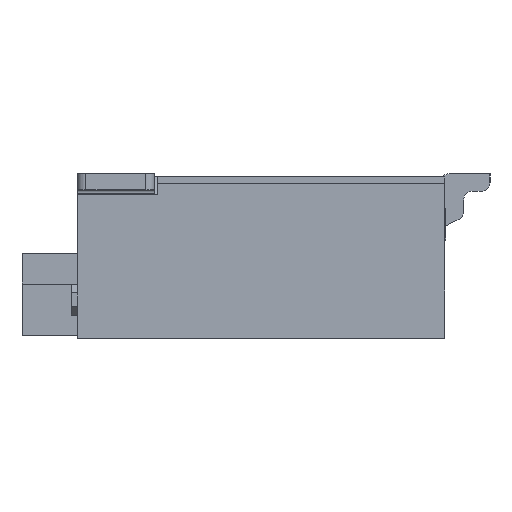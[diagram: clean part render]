
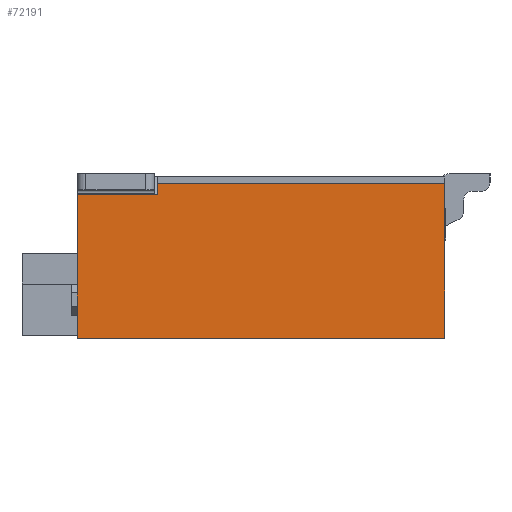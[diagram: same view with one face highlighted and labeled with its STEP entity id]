
A CAD part, left-side view. The second image highlights one B-rep face of the part: STEP entity #72191.
In plain terms, the highlighted planar face has unit normal (-1, 0, 0).
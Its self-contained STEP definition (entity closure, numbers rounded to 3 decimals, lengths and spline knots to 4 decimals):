
#5223=DIRECTION('',(0.,-1.,0.));
#5224=VECTOR('',#5223,1.25);
#5225=CARTESIAN_POINT('',(-16.225,2.85,0.975));
#5226=LINE('',#5225,#5224);
#10129=DIRECTION('',(0.,0.,-1.));
#10130=VECTOR('',#10129,2.4);
#10131=CARTESIAN_POINT('',(-16.225,-2.85,1.145));
#10132=LINE('',#10131,#10130);
#10205=DIRECTION('',(0.,0.,-1.));
#10206=VECTOR('',#10205,2.23);
#10207=CARTESIAN_POINT('',(-16.225,2.85,0.975));
#10208=LINE('',#10207,#10206);
#10209=DIRECTION('',(0.,0.,-1.));
#10210=VECTOR('',#10209,0.17);
#10211=CARTESIAN_POINT('',(-16.225,1.6,1.145));
#10212=LINE('',#10211,#10210);
#10261=DIRECTION('',(0.,1.,0.));
#10262=VECTOR('',#10261,5.7);
#10263=CARTESIAN_POINT('',(-16.225,-2.85,-1.255));
#10264=LINE('',#10263,#10262);
#40068=DIRECTION('',(0.,-1.,0.));
#40069=VECTOR('',#40068,4.45);
#40070=CARTESIAN_POINT('',(-16.225,1.6,1.145));
#40071=LINE('',#40070,#40069);
#50300=CARTESIAN_POINT('',(-16.225,-2.85,1.145));
#50301=CARTESIAN_POINT('',(-16.225,-2.85,-1.255));
#50302=VERTEX_POINT('',#50300);
#50303=VERTEX_POINT('',#50301);
#55565=CARTESIAN_POINT('',(-16.225,1.6,1.145));
#55566=VERTEX_POINT('',#55565);
#57734=CARTESIAN_POINT('',(-16.225,2.85,0.975));
#57735=CARTESIAN_POINT('',(-16.225,2.85,-1.255));
#57736=VERTEX_POINT('',#57734);
#57737=VERTEX_POINT('',#57735);
#61155=CARTESIAN_POINT('',(-16.225,1.6,0.975));
#61156=VERTEX_POINT('',#61155);
#72176=CARTESIAN_POINT('',(-16.225,0.,-0.055));
#72177=DIRECTION('',(1.,0.,0.));
#72178=DIRECTION('',(0.,1.,0.));
#72179=AXIS2_PLACEMENT_3D('',#72176,#72177,#72178);
#72180=PLANE('',#72179);
#72182=ORIENTED_EDGE('',*,*,#72181,.T.);
#72183=ORIENTED_EDGE('',*,*,#67957,.F.);
#72184=ORIENTED_EDGE('',*,*,#68079,.T.);
#72185=ORIENTED_EDGE('',*,*,#68104,.F.);
#72187=ORIENTED_EDGE('',*,*,#72186,.T.);
#72188=ORIENTED_EDGE('',*,*,#72138,.T.);
#72189=EDGE_LOOP('',(#72182,#72183,#72184,#72185,#72187,#72188));
#72190=FACE_OUTER_BOUND('',#72189,.F.);
#67957=EDGE_CURVE('',#57736,#57737,#10208,.T.);
#68079=EDGE_CURVE('',#57736,#61156,#5226,.T.);
#68104=EDGE_CURVE('',#55566,#61156,#10212,.T.);
#72138=EDGE_CURVE('',#50302,#50303,#10132,.T.);
#72181=EDGE_CURVE('',#50303,#57737,#10264,.T.);
#72186=EDGE_CURVE('',#55566,#50302,#40071,.T.);
#72191=ADVANCED_FACE('',(#72190),#72180,.F.);
